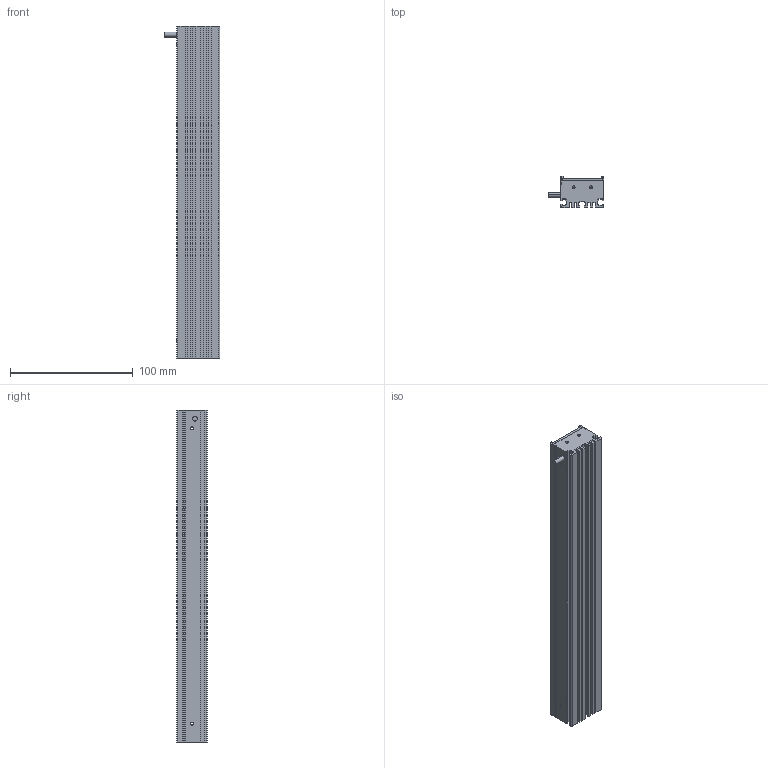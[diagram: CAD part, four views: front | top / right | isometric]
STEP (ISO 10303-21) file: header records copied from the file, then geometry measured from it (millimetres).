
FILE_DESCRIPTION (( 'STEP AP203' ), '1' );
FILE_NAME ('GTR27035-W.STEP', '2022-08-26T03:51:55', ( 'Windows User' ), ( 'P R C' ), 'SwSTEP 2.0', 'SolidWorks 2016', '' );
FILE_SCHEMA (( 'CONFIG_CONTROL_DESIGN' ));
Length unit declared in the file: millimetre
Products named in the file (1): GTR27035-W
Bounding box: 45 x 25 x 270 mm (x, y, z)
Volume: 100441.6 mm3; surface area: 85157.7 mm2
Topology: 2 solids, 2 shells, 1326 faces, 3232 edges, 2148 vertices
Faces by surface type: plane 1296, cylinder 22, cone 8
Entity records: 38111 total; most frequent: CARTESIAN_POINT 6699, ORIENTED_EDGE 6448, DIRECTION 5922, EDGE_CURVE 3224, LINE 3180, VECTOR 3180, VERTEX_POINT 2148, EDGE_LOOP 1580
